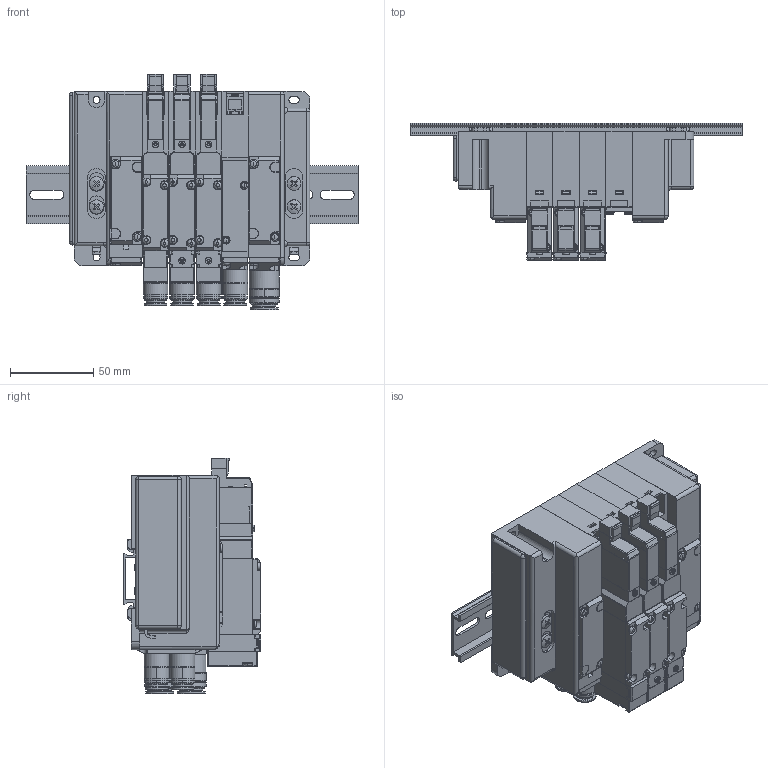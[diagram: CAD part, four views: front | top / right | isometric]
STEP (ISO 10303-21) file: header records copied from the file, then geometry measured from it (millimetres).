
FILE_DESCRIPTION( (''), '2;1');
FILE_NAME ('CVICAD02.4348.F15M4XNJ-JR-DR_21299.stp','2021-07-12T19:12:01',(''),(''),'spGate 12.6.6','','');
FILE_SCHEMA (('AUTOMOTIVE_DESIGN'));
Length unit declared in the file: millimetre
Products named in the file (20): Assembly; CVICAD02-prt0; CVICAD02-prt1; CVICAD02-prt2; CVICAD02-prt3; CVICAD02-prt4; CVICAD02-prt5; CVICAD02-prt6; CVICAD02-asm1; CVICAD02-asm2; CVICAD02-prt15; CVICAD02-prt16; CVICAD02-prt7; CVICAD02-prt8; CVICAD02-prt9; CVICAD02-prt10; CVICAD02-prt11; CVICAD02-prt12; CVICAD02-prt13; CVICAD02-prt14
Assembly tree (34 placements, depth 3):
  Assembly
    CVICAD02-prt0
    CVICAD02-prt1
    CVICAD02-prt2  x4
    CVICAD02-prt3
    CVICAD02-prt4  x3
    CVICAD02-prt5
    CVICAD02-prt6
    CVICAD02-asm1
      CVICAD02-prt7
      CVICAD02-prt8
      CVICAD02-prt9
      CVICAD02-prt10
      CVICAD02-prt11
      CVICAD02-prt12
      CVICAD02-prt13
    CVICAD02-asm2  x2
      CVICAD02-prt7
      CVICAD02-prt8
      CVICAD02-prt9
      CVICAD02-prt11
      CVICAD02-prt12
      CVICAD02-prt13
      CVICAD02-prt14
    CVICAD02-prt15
    CVICAD02-prt16  x4
Bounding box: 200 x 83 x 142.1 mm (x, y, z)
Volume: 821034.9 mm3; surface area: 230483.3 mm2
Topology: 38 solids, 38 shells, 3678 faces, 9541 edges, 6132 vertices
Faces by surface type: plane 2303, cylinder 995, bspline 330, sphere 50
Entity records: 92211 total; most frequent: CARTESIAN_POINT 12181, ORIENTED_EDGE 9152, DIRECTION 8659, COLOUR_RGB 6347, PRESENTATION_STYLE_ASSIGNMENT 6347, STYLED_ITEM 6347, EDGE_CURVE 4576, DRAUGHTING_PRE_DEFINED_CURVE_FONT 4576
